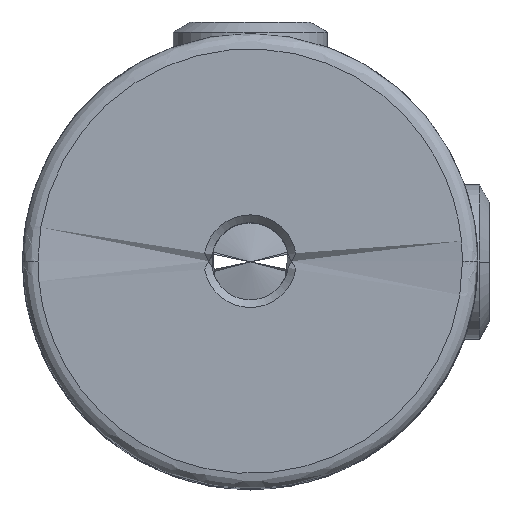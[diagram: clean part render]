
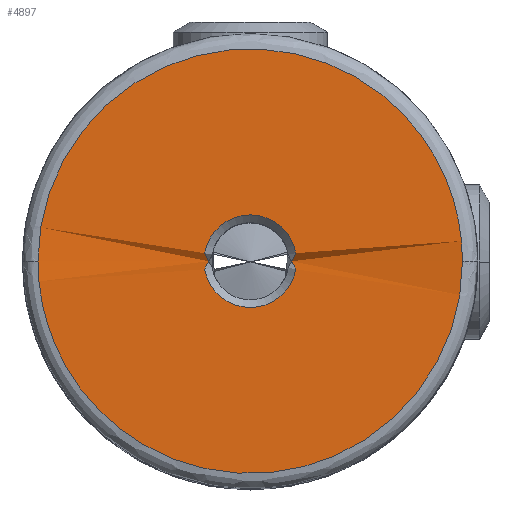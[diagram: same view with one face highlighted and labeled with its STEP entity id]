
A CAD part, top view. The second image highlights one B-rep face of the part: STEP entity #4897.
In plain terms, the highlighted planar face has unit normal (0, 0, 1).
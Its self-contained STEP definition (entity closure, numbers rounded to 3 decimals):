
#67 = AXIS2_PLACEMENT_3D ( 'NONE', #1466, #1016, #3746 ) ;
#193 = CARTESIAN_POINT ( 'NONE',  ( -0.538, 0., 3.878 ) ) ;
#221 = CIRCLE ( 'NONE', #2632, 0.6 ) ;
#364 = VERTEX_POINT ( 'NONE', #3674 ) ;
#536 = CARTESIAN_POINT ( 'NONE',  ( -2.75, 0., 4.2 ) ) ;
#612 = VERTEX_POINT ( 'NONE', #3454 ) ;
#650 = CARTESIAN_POINT ( 'NONE',  ( 2.75, 5.5, 4.2 ) ) ;
#910 = ORIENTED_EDGE ( 'NONE', *, *, #2441, .T. ) ;
#1016 = DIRECTION ( 'NONE',  ( 0., 0., -1. ) ) ;
#1057 = ORIENTED_EDGE ( 'NONE', *, *, #2113, .F. ) ;
#1102 =( BOUNDED_CURVE ( )  B_SPLINE_CURVE ( 3, ( #3686, #3723, #650, #1390 ),
 .UNSPECIFIED., .F., .F. ) 
 B_SPLINE_CURVE_WITH_KNOTS ( ( 4, 4 ),
 ( 0., 1. ),
 .UNSPECIFIED. ) 
 CURVE ( )  GEOMETRIC_REPRESENTATION_ITEM ( )  RATIONAL_B_SPLINE_CURVE ( ( 1., 0.333, 0.333, 1. ) ) 
 REPRESENTATION_ITEM ( '' )  );
#1268 = FACE_OUTER_BOUND ( 'NONE', #1863, .T. ) ;
#1390 = CARTESIAN_POINT ( 'NONE',  ( 2.75, 0., 4.2 ) ) ;
#1404 = EDGE_LOOP ( 'NONE', ( #4900, #910 ) ) ;
#1466 = CARTESIAN_POINT ( 'NONE',  ( 0., 0., 4.2 ) ) ;
#1547 = CIRCLE ( 'NONE', #67, 0.6 ) ;
#1646 = VERTEX_POINT ( 'NONE', #536 ) ;
#1752 = EDGE_CURVE ( 'NONE', #612, #3332, #221, .T. ) ;
#1863 = EDGE_LOOP ( 'NONE', ( #4194, #1057 ) ) ;
#2113 = EDGE_CURVE ( 'NONE', #364, #1646, #4158, .T. ) ;
#2305 = CARTESIAN_POINT ( 'NONE',  ( -2.75, -5.5, 4.2 ) ) ;
#2441 = EDGE_CURVE ( 'NONE', #3332, #612, #1547, .T. ) ;
#2600 = PLANE ( 'NONE',  #3504 ) ;
#2632 = AXIS2_PLACEMENT_3D ( 'NONE', #2982, #4583, #4169 ) ;
#2857 = EDGE_CURVE ( 'NONE', #1646, #364, #1102, .T. ) ;
#2917 = CARTESIAN_POINT ( 'NONE',  ( 0., 0., 4.2 ) ) ;
#2944 = DIRECTION ( 'NONE',  ( 1., 0., 0. ) ) ;
#2982 = CARTESIAN_POINT ( 'NONE',  ( 0., 0., 4.2 ) ) ;
#3332 = VERTEX_POINT ( 'NONE', #193 ) ;
#3454 = CARTESIAN_POINT ( 'NONE',  ( 0.538, 0., 3.878 ) ) ;
#3504 = AXIS2_PLACEMENT_3D ( 'NONE', #2917, #4487, #2944 ) ;
#3674 = CARTESIAN_POINT ( 'NONE',  ( 2.75, 0., 4.2 ) ) ;
#3686 = CARTESIAN_POINT ( 'NONE',  ( -2.75, 0., 4.2 ) ) ;
#3703 = CARTESIAN_POINT ( 'NONE',  ( -2.75, 0., 4.2 ) ) ;
#3723 = CARTESIAN_POINT ( 'NONE',  ( -2.75, 5.5, 4.2 ) ) ;
#3746 = DIRECTION ( 'NONE',  ( 1., 0., 0. ) ) ;
#4097 = CARTESIAN_POINT ( 'NONE',  ( 2.75, -5.5, 4.2 ) ) ;
#4158 =( BOUNDED_CURVE ( )  B_SPLINE_CURVE ( 3, ( #4881, #4097, #2305, #3703 ),
 .UNSPECIFIED., .F., .F. ) 
 B_SPLINE_CURVE_WITH_KNOTS ( ( 4, 4 ),
 ( 0., 1. ),
 .UNSPECIFIED. ) 
 CURVE ( )  GEOMETRIC_REPRESENTATION_ITEM ( )  RATIONAL_B_SPLINE_CURVE ( ( 1., 0.333, 0.333, 1. ) ) 
 REPRESENTATION_ITEM ( '' )  );
#4169 = DIRECTION ( 'NONE',  ( 1., 0., 0. ) ) ;
#4194 = ORIENTED_EDGE ( 'NONE', *, *, #2857, .F. ) ;
#4332 = FACE_BOUND ( 'NONE', #1404, .T. ) ;
#4487 = DIRECTION ( 'NONE',  ( 0., 0., 1. ) ) ;
#4583 = DIRECTION ( 'NONE',  ( 0., 0., -1. ) ) ;
#4881 = CARTESIAN_POINT ( 'NONE',  ( 2.75, 0., 4.2 ) ) ;
#4897 = ADVANCED_FACE ( 'NONE', ( #4332, #1268 ), #2600, .T. ) ;
#4900 = ORIENTED_EDGE ( 'NONE', *, *, #1752, .T. ) ;
